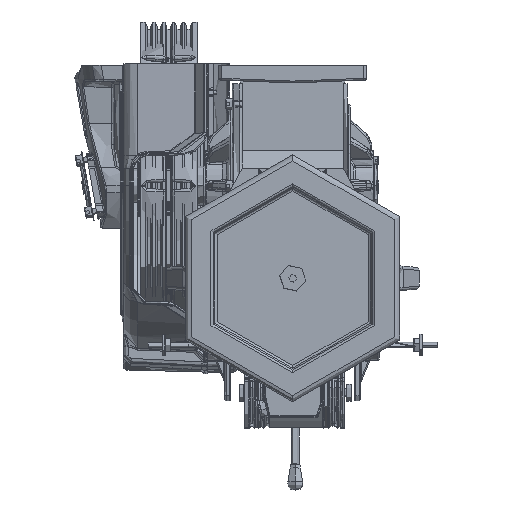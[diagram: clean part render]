
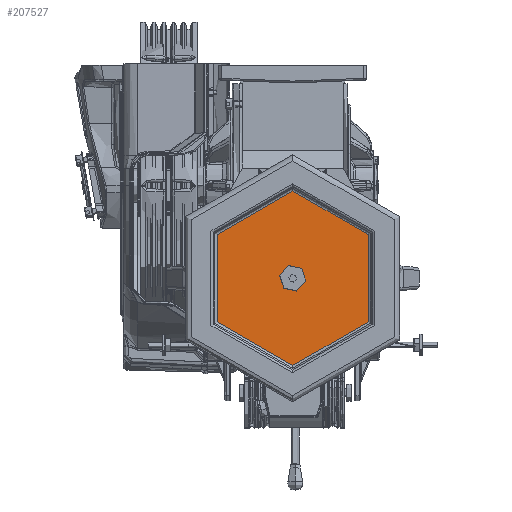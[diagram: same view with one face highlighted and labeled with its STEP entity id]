
A CAD part, front view. The second image highlights one B-rep face of the part: STEP entity #207527.
In plain terms, the highlighted planar face has unit normal (0, -1, 0).
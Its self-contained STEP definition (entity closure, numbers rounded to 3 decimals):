
#1580 = DIRECTION ( 'NONE',  ( 0., -1., 0. ) ) ;
#4179 = CARTESIAN_POINT ( 'NONE',  ( -365.022, -472.791, 772.906 ) ) ;
#5818 = DIRECTION ( 'NONE',  ( 0., -1., 0. ) ) ;
#8362 = CARTESIAN_POINT ( 'NONE',  ( -365.022, -472.791, 914.246 ) ) ;
#12528 = CIRCLE ( 'NONE', #292591, 18.111 ) ;
#22014 = FACE_BOUND ( 'NONE', #284383, .T. ) ;
#23722 = EDGE_CURVE ( 'NONE', #106575, #230280, #12528, .T. ) ;
#25820 = EDGE_LOOP ( 'NONE', ( #45303, #212141 ) ) ;
#27212 = DIRECTION ( 'NONE',  ( 0., -1., 0. ) ) ;
#28209 = PLANE ( 'NONE',  #228913 ) ;
#33978 = CARTESIAN_POINT ( 'NONE',  ( -365.022, -472.791, 914.246 ) ) ;
#34063 = CIRCLE ( 'NONE', #249286, 141.34 ) ;
#41481 = EDGE_CURVE ( 'NONE', #230280, #106575, #57668, .T. ) ;
#45303 = ORIENTED_EDGE ( 'NONE', *, *, #71618, .T. ) ;
#46330 = DIRECTION ( 'NONE',  ( 0., -1., 0. ) ) ;
#53789 = DIRECTION ( 'NONE',  ( 0., 0., -1. ) ) ;
#57668 = CIRCLE ( 'NONE', #73334, 18.111 ) ;
#63630 = DIRECTION ( 'NONE',  ( 0., 0., -1. ) ) ;
#71618 = EDGE_CURVE ( 'NONE', #207105, #301322, #77482, .T. ) ;
#73334 = AXIS2_PLACEMENT_3D ( 'NONE', #191464, #87094, #63630 ) ;
#77482 = CIRCLE ( 'NONE', #252525, 141.34 ) ;
#87094 = DIRECTION ( 'NONE',  ( 0., -1., 0. ) ) ;
#94852 = ORIENTED_EDGE ( 'NONE', *, *, #41481, .F. ) ;
#100191 = FACE_OUTER_BOUND ( 'NONE', #25820, .T. ) ;
#106575 = VERTEX_POINT ( 'NONE', #127486 ) ;
#123713 = EDGE_CURVE ( 'NONE', #301322, #207105, #34063, .T. ) ;
#123880 = CARTESIAN_POINT ( 'NONE',  ( -365.022, -472.791, 932.357 ) ) ;
#127486 = CARTESIAN_POINT ( 'NONE',  ( -365.022, -472.791, 896.135 ) ) ;
#142726 = ORIENTED_EDGE ( 'NONE', *, *, #23722, .F. ) ;
#175449 = CARTESIAN_POINT ( 'NONE',  ( -365.022, -472.791, 1055.585 ) ) ;
#191464 = CARTESIAN_POINT ( 'NONE',  ( -365.022, -472.791, 914.246 ) ) ;
#191894 = CARTESIAN_POINT ( 'NONE',  ( -365.022, -472.791, 914.246 ) ) ;
#194167 = DIRECTION ( 'NONE',  ( 0., 0., -1. ) ) ;
#201462 = DIRECTION ( 'NONE',  ( 0., 0., -1. ) ) ;
#207105 = VERTEX_POINT ( 'NONE', #4179 ) ;
#207527 = ADVANCED_FACE ( 'NONE', ( #100191, #22014 ), #28209, .T. ) ;
#212141 = ORIENTED_EDGE ( 'NONE', *, *, #123713, .T. ) ;
#214564 = CARTESIAN_POINT ( 'NONE',  ( -223.682, -472.791, 914.246 ) ) ;
#228913 = AXIS2_PLACEMENT_3D ( 'NONE', #214564, #1580, #194167 ) ;
#230280 = VERTEX_POINT ( 'NONE', #123880 ) ;
#249286 = AXIS2_PLACEMENT_3D ( 'NONE', #33978, #5818, #201462 ) ;
#252525 = AXIS2_PLACEMENT_3D ( 'NONE', #8362, #27212, #53789 ) ;
#262391 = DIRECTION ( 'NONE',  ( 0., 0., -1. ) ) ;
#284383 = EDGE_LOOP ( 'NONE', ( #94852, #142726 ) ) ;
#292591 = AXIS2_PLACEMENT_3D ( 'NONE', #191894, #46330, #262391 ) ;
#301322 = VERTEX_POINT ( 'NONE', #175449 ) ;
